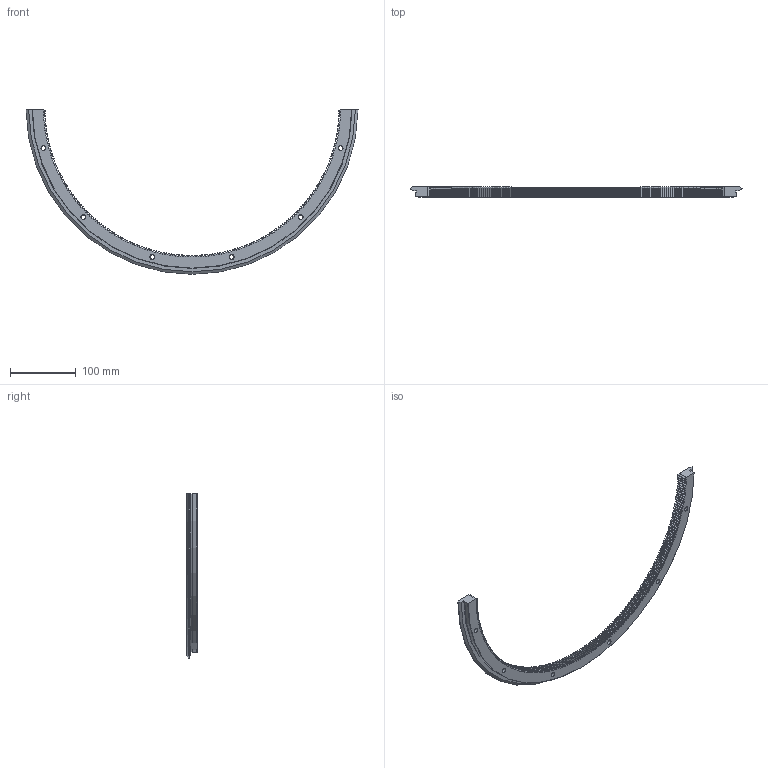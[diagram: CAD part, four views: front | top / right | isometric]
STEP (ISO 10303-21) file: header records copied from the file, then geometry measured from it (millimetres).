
FILE_DESCRIPTION( ( 'STEP AP203' ), '1' );
FILE_NAME( 'p:/temp/worker_71/temp/exporttempdir_3676_446_gUusm/format_0/REM 505 R180 Q.stp', '2021-08-30T05:10:32', ( 'License CC BY-ND 4.0' ), ( 'CADENAS' ), ' ', 'PARTsolutions', ' ' );
FILE_SCHEMA( ( 'CONFIG_CONTROL_DESIGN' ) );
Length unit declared in the file: millimetre
Products named in the file (1): _REM 505 R180 Q
Bounding box: 505.48 x 15.5 x 250.75 mm (x, y, z)
Volume: 240761.3 mm3; surface area: 74412.9 mm2
Topology: 1 solids, 1 shells, 932 faces, 2766 edges, 1842 vertices
Faces by surface type: cylinder 373, plane 370, cone 188, torus 1
Full cylindrical faces by diameter (mm): 6.8 x6, 11 x6
Entity records: 31817 total; most frequent: CARTESIAN_POINT 6633, ORIENTED_EDGE 5496, DIRECTION 5184, EDGE_CURVE 2748, AXIS2_PLACEMENT_3D 1869, VERTEX_POINT 1843, LINE 1446, VECTOR 1446
